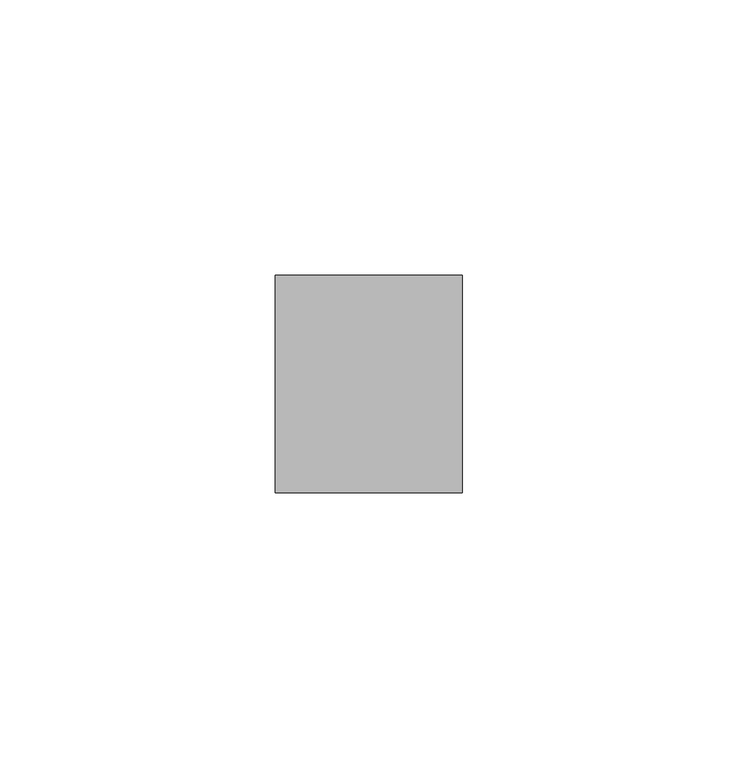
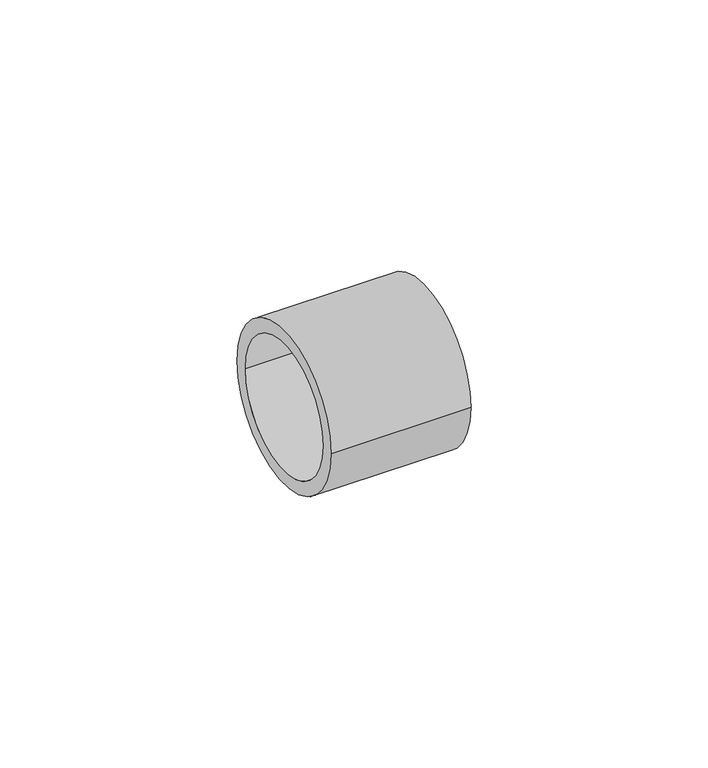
"""IFC4 building model written with IfcOpenShell, lengths in millimetres: pipe fitting geometry, RAUTITAN_Sleeve SDR 7,4 : RTI S SDR 7,4."""

from ifc_helpers import new_model, si_unit, point, frame, origin, origin_2d, place, context, project, spatial, circle_curve, trimmed, segment, composite_curve, outline, extrude, source, transform, mapped, element, save


def pipe_fitting_1876d1a3(model_context):
    return source(origin(), model_context, "Body", "SweptSolid", [
        extrude(outline(composite_curve([segment(trimmed(circle_curve(origin_2d(), 19.75), [point((-19.75, 0.0))], [point((19.75, 0.0))], False, "CARTESIAN"), True, "CONTINUOUS"), segment(trimmed(circle_curve(origin_2d(), 19.75), [point((19.75, 0.0))], [point((-19.75, 0.0))], False, "CARTESIAN"), True, "CONTINUOUS")], self_intersect=False), holes=[composite_curve([segment(trimmed(circle_curve(origin_2d(), 16.35), [point((-16.35, 0.0))], [point((16.35, 0.0))], True, "CARTESIAN"), True, "CONTINUOUS"), segment(trimmed(circle_curve(origin_2d(), 16.35), [point((16.35, 0.0))], [point((-16.35, 0.0))], True, "CARTESIAN"), True, "CONTINUOUS")], self_intersect=False)]), frame((0.0, 0.0, 0.0), z_axis=(1.0, 0.0, 0.0), x_axis=(0.0, 1.0, 0.0)), (0.0, 0.0, 1.0), 34.0),
    ])


if __name__ == "__main__":
    model = new_model("IFC4")
    model_context = context("Model", 3, world=origin())
    ifc_project = project(units=[si_unit("LENGTHUNIT", "METRE", prefix="MILLI")], contexts=[model_context])
    site = spatial("IfcSite", under=ifc_project)
    building = spatial("IfcBuilding", under=site)
    placement = place(None, origin())
    pipe_fitting_shape = pipe_fitting_1876d1a3(model_context)
    element("IfcPipeFitting", 1, ObjectType="RAUTITAN_Sleeve SDR 7,4 : RTI S SDR 7,4", at=placement, inside=building, context=model_context, shape_type="MappedRepresentation", body=[
        mapped(pipe_fitting_shape, transform((0.0, 0.0, 0.0), x_axis=(1.0, 0.0, 0.0), y_axis=(0.0, 1.0, 0.0), z_axis=(0.0, 0.0, 1.0))),
    ])
    save(model, "model.ifc")
